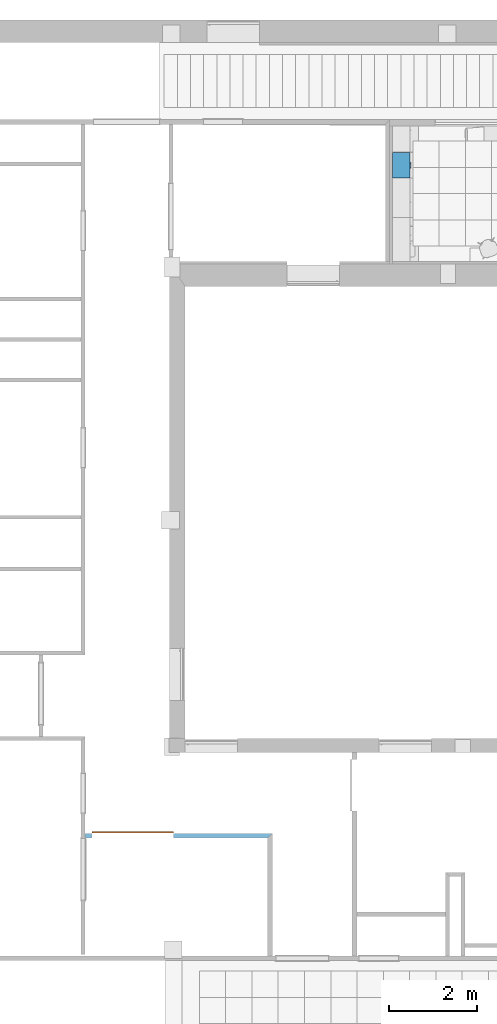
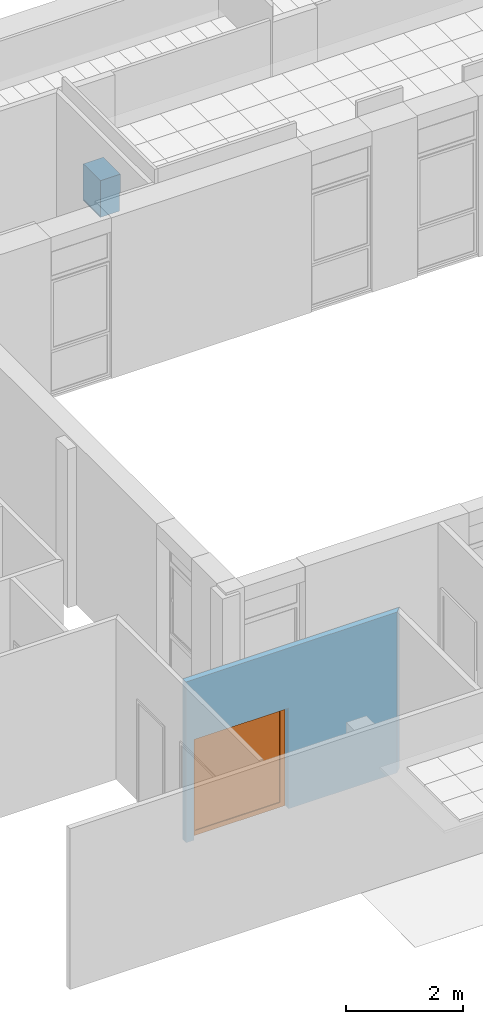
# One storey, part 45 of 60: 1 proxy, 1 slab, 1 opening, plus 1 element that does not belong to this part.
"""IFC2X3 building model written with IfcOpenShell, lengths in millimetres."""

from ifc_helpers import new_model, entity, si_unit, converted_unit, derived_unit, money_unit, direction, frame, origin_with_axes, origin_2d_with_axis, place, context, subcontext, project, spatial, polyline, rectangle, outline, extrude, open_shell, faceted_brep, surface_model, material, layer, layer_set, layer_usage, type_object, element, fill, save


model = new_model("IFC2X3")

# Units and contexts
model_context = context("Model", 3, precision=0.01, world=origin_with_axes(), true_north=direction((0.0, 1.0)))
body_context = subcontext(model_context, "Body", "Model", "MODEL_VIEW")
ifc_project = project(units=[si_unit("LENGTHUNIT", "METRE", prefix="MILLI"), si_unit("AREAUNIT", "SQUARE_METRE"), si_unit("VOLUMEUNIT", "CUBIC_METRE"), converted_unit("PLANEANGLEUNIT", "DEGREE", entity("IfcPlaneAngleMeasure", 0.0174532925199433), si_unit("PLANEANGLEUNIT", "RADIAN"), dimensions=[0, 0, 0, 0, 0, 0, 0]), money_unit("USD"), converted_unit("TIMEUNIT", "Year", entity("IfcTimeMeasure", 31557600.0), si_unit("TIMEUNIT", "SECOND"), dimensions=[0, 0, 1, 0, 0, 0, 0]), si_unit("MASSUNIT", "GRAM", prefix="KILO"), si_unit("THERMODYNAMICTEMPERATUREUNIT", "DEGREE_CELSIUS"), si_unit("LUMINOUSINTENSITYUNIT", "LUMEN"), si_unit("ENERGYUNIT", "JOULE", prefix="MEGA"), derived_unit("THERMALCONDUCTANCEUNIT", [(si_unit("POWERUNIT", "WATT"), 1), (si_unit("LENGTHUNIT", "METRE"), -1), (si_unit("THERMODYNAMICTEMPERATUREUNIT", "KELVIN"), -1)]), derived_unit("SPECIFICHEATCAPACITYUNIT", [(si_unit("ENERGYUNIT", "JOULE"), 1), (si_unit("MASSUNIT", "GRAM", prefix="KILO"), -1), (si_unit("THERMODYNAMICTEMPERATUREUNIT", "KELVIN"), -1)]), derived_unit("MASSDENSITYUNIT", [(si_unit("MASSUNIT", "GRAM", prefix="KILO"), 1), (si_unit("VOLUMEUNIT", "CUBIC_METRE"), -1)])], contexts=[model_context])

# Site, building, storey
site_placement = place(None, origin_with_axes())
site = spatial("IfcSite", under=ifc_project, at=site_placement, Name="Sitio", CompositionType="ELEMENT")
building_placement = place(site_placement, origin_with_axes())
building = spatial("IfcBuilding", under=site, at=building_placement, Name="Construcción", CompositionType="ELEMENT")
storey_placement = place(building_placement, frame((0.0, 0.0, 3650.0), z_axis=(0.0, 0.0, 1.0), x_axis=(1.0, 0.0, 0.0)))
storey = spatial("IfcBuildingStorey", under=building, at=storey_placement, Name="PLANTA 2ª", CompositionType="ELEMENT", Elevation=3650.0)

# Slab
slab_type = type_object("IfcSlabType", Name="Armario Mural 27", PredefinedType="FLOOR")
slab_placement = place(storey_placement, frame((-22963.41789761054, 771.0241762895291, -59.99999999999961), z_axis=(0.0, 0.0, 1.0), x_axis=(0.0, 1.0, 0.0)))
element("IfcSlab", 1, at=slab_placement, inside=storey, type_object=slab_type, Name="60.20.50 Armari", PredefinedType="FLOOR", context=body_context, shape_type="Brep", body=[
    faceted_brep([(18.0, -379.999999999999, 1872.833604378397), (565.8288796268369, -379.999999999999, 1872.833604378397), (565.8288796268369, -379.999999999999, 1890.833604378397), (18.0, -379.999999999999, 1890.833604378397), (18.0, -18.0, 1872.833604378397), (565.8288796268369, -18.0, 1872.833604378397), (565.8288796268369, -18.0, 1890.833604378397), (18.0, -18.0, 1890.833604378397)], [[[0, 1, 2, 3]], [[0, 4, 5, 1]], [[1, 5, 6, 2]], [[3, 2, 6, 7]], [[4, 0, 3, 7]], [[5, 4, 7, 6]]]),
    faceted_brep([(560.8288796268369, -379.999999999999, 1895.833604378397), (23.0, -379.999999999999, 1895.833604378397), (23.0, -18.00000000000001, 1895.833604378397), (560.8288796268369, -18.00000000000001, 1895.833604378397), (560.8288796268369, -379.999999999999, 1905.833604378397), (23.0, -379.999999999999, 1905.833604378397), (23.0, -18.00000000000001, 1905.833604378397), (560.8288796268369, -18.00000000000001, 1905.833604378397)], [[[0, 1, 2, 3]], [[1, 0, 4, 5]], [[2, 1, 5, 6]], [[3, 2, 6, 7]], [[0, 3, 7, 4]], [[5, 4, 7, 6]]]),
    faceted_brep([(43.0, -379.999999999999, 1905.833604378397), (23.0, -379.999999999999, 1905.833604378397), (23.0, -18.00000000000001, 1905.833604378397), (43.0, -18.00000000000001, 1905.833604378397), (43.0, -379.999999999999, 2240.667208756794), (23.0, -379.999999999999, 2240.667208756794), (23.0, -18.00000000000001, 2240.667208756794), (43.0, -18.00000000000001, 2240.667208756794)], [[[0, 1, 2, 3]], [[1, 0, 4, 5]], [[2, 1, 5, 6]], [[3, 2, 6, 7]], [[0, 3, 7, 4]], [[5, 4, 7, 6]]]),
    faceted_brep([(560.8288796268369, -379.999999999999, 1905.833604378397), (540.8288796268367, -379.999999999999, 1905.833604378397), (540.8288796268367, -18.00000000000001, 1905.833604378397), (560.8288796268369, -18.00000000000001, 1905.833604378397), (560.8288796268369, -379.999999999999, 2240.667208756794), (540.8288796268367, -379.999999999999, 2240.667208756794), (540.8288796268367, -18.00000000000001, 2240.667208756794), (560.8288796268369, -18.00000000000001, 2240.667208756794)], [[[0, 1, 2, 3]], [[1, 0, 4, 5]], [[2, 1, 5, 6]], [[3, 2, 6, 7]], [[0, 3, 7, 4]], [[5, 4, 7, 6]]]),
    faceted_brep([(540.8288796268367, -33.00000000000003, 1905.833604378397), (43.0, -33.00000000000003, 1905.833604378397), (43.0, -23.00000000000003, 1905.833604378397), (540.8288796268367, -23.00000000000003, 1905.833604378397), (540.8288796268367, -33.00000000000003, 2240.667208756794), (43.0, -33.00000000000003, 2240.667208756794), (43.0, -23.00000000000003, 2240.667208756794), (540.8288796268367, -23.00000000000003, 2240.667208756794)], [[[0, 1, 2, 3]], [[1, 0, 4, 5]], [[2, 1, 5, 6]], [[3, 2, 6, 7]], [[0, 3, 7, 4]], [[5, 4, 7, 6]]]),
    faceted_brep([(343.7134785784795, -397.999999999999, 1971.882165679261), (343.4879029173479, -397.999999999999, 1971.040305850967), (343.1195668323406, -397.999999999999, 1970.250406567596), (342.6196620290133, -397.999999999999, 1969.536468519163), (342.0033778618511, -397.999999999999, 1968.920184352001), (341.2894398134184, -397.999999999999, 1968.420279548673), (340.4995405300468, -397.999999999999, 1968.051943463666), (339.6576807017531, -397.999999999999, 1967.826367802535), (338.7894398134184, -397.999999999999, 1967.750406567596), (337.9211989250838, -397.999999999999, 1967.826367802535), (337.0793390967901, -397.999999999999, 1968.051943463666), (336.2894398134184, -397.999999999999, 1968.420279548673), (335.5755017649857, -397.999999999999, 1968.920184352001), (334.9592175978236, -397.999999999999, 1969.536468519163), (334.4593127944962, -397.999999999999, 1970.250406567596), (334.0909767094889, -397.999999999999, 1971.040305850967), (333.8654010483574, -397.999999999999, 1971.882165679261), (333.7894398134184, -397.999999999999, 1972.750406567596), (333.8654010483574, -397.999999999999, 1973.61864745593), (334.0909767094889, -397.999999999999, 1974.460507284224), (334.4593127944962, -397.999999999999, 1975.250406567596), (334.9592175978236, -397.999999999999, 1975.964344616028), (335.5755017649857, -397.999999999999, 1976.58062878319), (336.2894398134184, -397.999999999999, 1977.080533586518), (337.0793390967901, -397.999999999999, 1977.448869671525), (337.9211989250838, -397.999999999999, 1977.674445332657), (338.7894398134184, -397.999999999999, 1977.750406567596), (339.6576807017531, -397.999999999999, 1977.674445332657), (340.4995405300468, -397.999999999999, 1977.448869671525), (341.2894398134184, -397.999999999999, 1977.080533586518), (342.0033778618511, -397.999999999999, 1976.58062878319), (342.6196620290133, -397.999999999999, 1975.964344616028), (343.1195668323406, -397.999999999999, 1975.250406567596), (343.4879029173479, -397.999999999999, 1974.460507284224), (343.7134785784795, -397.999999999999, 1973.61864745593), (343.7894398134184, -397.999999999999, 1972.750406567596), (343.7134785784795, -422.999999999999, 1971.882165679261), (343.4879029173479, -422.999999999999, 1971.040305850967), (343.1195668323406, -422.999999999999, 1970.250406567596), (342.6196620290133, -422.999999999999, 1969.536468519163), (342.0033778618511, -422.999999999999, 1968.920184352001), (341.2894398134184, -422.999999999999, 1968.420279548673), (340.4995405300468, -422.999999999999, 1968.051943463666), (339.6576807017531, -422.999999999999, 1967.826367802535), (338.7894398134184, -422.999999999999, 1967.750406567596), (337.9211989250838, -422.999999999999, 1967.826367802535), (337.0793390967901, -422.999999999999, 1968.051943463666), (336.2894398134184, -422.999999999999, 1968.420279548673), (335.5755017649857, -422.999999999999, 1968.920184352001), (334.9592175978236, -422.999999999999, 1969.536468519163), (334.4593127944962, -422.999999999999, 1970.250406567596), (334.0909767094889, -422.999999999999, 1971.040305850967), (333.8654010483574, -422.999999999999, 1971.882165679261), (333.7894398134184, -422.999999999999, 1972.750406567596), (333.8654010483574, -422.999999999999, 1973.61864745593), (334.0909767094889, -422.999999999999, 1974.460507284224), (334.4593127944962, -422.999999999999, 1975.250406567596), (334.9592175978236, -422.999999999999, 1975.964344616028), (335.5755017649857, -422.999999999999, 1976.58062878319), (336.2894398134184, -422.999999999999, 1977.080533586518), (337.0793390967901, -422.999999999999, 1977.448869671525), (337.9211989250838, -422.999999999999, 1977.674445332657), (338.7894398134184, -422.999999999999, 1977.750406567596), (339.6576807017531, -422.999999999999, 1977.674445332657), (340.4995405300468, -422.999999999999, 1977.448869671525), (341.2894398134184, -422.999999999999, 1977.080533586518), (342.0033778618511, -422.999999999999, 1976.58062878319), (342.6196620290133, -422.999999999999, 1975.964344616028), (343.1195668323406, -422.999999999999, 1975.250406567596), (343.4879029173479, -422.999999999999, 1974.460507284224), (343.7134785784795, -422.999999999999, 1973.61864745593), (343.7894398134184, -422.999999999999, 1972.750406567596)], [[[0, 1, 2, 3, 4, 5, 6, 7, 8, 9, 10, 11, 12, 13, 14, 15, 16, 17, 18, 19, 20, 21, 22, 23, 24, 25, 26, 27, 28, 29, 30, 31, 32, 33, 34, 35]], [[1, 0, 36, 37]], [[2, 1, 37, 38]], [[3, 2, 38, 39]], [[4, 3, 39, 40]], [[5, 4, 40, 41]], [[6, 5, 41, 42]], [[7, 6, 42, 43]], [[8, 7, 43, 44]], [[9, 8, 44, 45]], [[10, 9, 45, 46]], [[11, 10, 46, 47]], [[12, 11, 47, 48]], [[13, 12, 48, 49]], [[14, 13, 49, 50]], [[15, 14, 50, 51]], [[16, 15, 51, 52]], [[17, 16, 52, 53]], [[18, 17, 53, 54]], [[19, 18, 54, 55]], [[20, 19, 55, 56]], [[21, 20, 56, 57]], [[22, 21, 57, 58]], [[23, 22, 58, 59]], [[24, 23, 59, 60]], [[25, 24, 60, 61]], [[26, 25, 61, 62]], [[27, 26, 62, 63]], [[28, 27, 63, 64]], [[29, 28, 64, 65]], [[30, 29, 65, 66]], [[31, 30, 66, 67]], [[32, 31, 67, 68]], [[33, 32, 68, 69]], [[34, 33, 69, 70]], [[35, 34, 70, 71]], [[0, 35, 71, 36]], [[36, 71, 70, 69, 68, 67, 66, 65, 64, 63, 62, 61, 60, 59, 58, 57, 56, 55, 54, 53, 52, 51, 50, 49, 48, 47, 46, 45, 44, 43, 42, 41, 40, 39, 38, 37]]]),
    faceted_brep([(240.1154010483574, -397.999999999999, 1971.882165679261), (240.0394398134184, -397.999999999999, 1972.750406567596), (240.1154010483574, -397.999999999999, 1973.61864745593), (240.3409767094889, -397.999999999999, 1974.460507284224), (240.7093127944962, -397.999999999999, 1975.250406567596), (241.2092175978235, -397.999999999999, 1975.964344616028), (241.8255017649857, -397.999999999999, 1976.58062878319), (242.5394398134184, -397.999999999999, 1977.080533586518), (243.3293390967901, -397.999999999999, 1977.448869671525), (244.1711989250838, -397.999999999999, 1977.674445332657), (245.0394398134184, -397.999999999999, 1977.750406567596), (245.9076807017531, -397.999999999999, 1977.674445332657), (246.7495405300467, -397.999999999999, 1977.448869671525), (247.5394398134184, -397.999999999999, 1977.080533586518), (248.2533778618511, -397.999999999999, 1976.58062878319), (248.8696620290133, -397.999999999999, 1975.964344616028), (249.3695668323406, -397.999999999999, 1975.250406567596), (249.737902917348, -397.999999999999, 1974.460507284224), (249.9634785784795, -397.999999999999, 1973.61864745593), (250.0394398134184, -397.999999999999, 1972.750406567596), (249.9634785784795, -397.999999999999, 1971.882165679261), (249.737902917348, -397.999999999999, 1971.040305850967), (249.3695668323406, -397.999999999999, 1970.250406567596), (248.8696620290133, -397.999999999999, 1969.536468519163), (248.2533778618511, -397.999999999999, 1968.920184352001), (247.5394398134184, -397.999999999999, 1968.420279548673), (246.7495405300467, -397.999999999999, 1968.051943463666), (245.9076807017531, -397.999999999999, 1967.826367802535), (245.0394398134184, -397.999999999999, 1967.750406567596), (244.1711989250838, -397.999999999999, 1967.826367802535), (243.3293390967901, -397.999999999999, 1968.051943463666), (242.5394398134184, -397.999999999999, 1968.420279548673), (241.8255017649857, -397.999999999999, 1968.920184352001), (241.2092175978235, -397.999999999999, 1969.536468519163), (240.7093127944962, -397.999999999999, 1970.250406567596), (240.3409767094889, -397.999999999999, 1971.040305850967), (240.1154010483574, -422.999999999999, 1971.882165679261), (240.0394398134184, -422.999999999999, 1972.750406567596), (240.1154010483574, -422.999999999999, 1973.61864745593), (240.3409767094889, -422.999999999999, 1974.460507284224), (240.7093127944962, -422.999999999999, 1975.250406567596), (241.2092175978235, -422.999999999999, 1975.964344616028), (241.8255017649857, -422.999999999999, 1976.58062878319), (242.5394398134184, -422.999999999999, 1977.080533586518), (243.3293390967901, -422.999999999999, 1977.448869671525), (244.1711989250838, -422.999999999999, 1977.674445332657), (245.0394398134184, -422.999999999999, 1977.750406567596), (245.9076807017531, -422.999999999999, 1977.674445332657), (246.7495405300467, -422.999999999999, 1977.448869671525), (247.5394398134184, -422.999999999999, 1977.080533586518), (248.2533778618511, -422.999999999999, 1976.58062878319), (248.8696620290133, -422.999999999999, 1975.964344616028), (249.3695668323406, -422.999999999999, 1975.250406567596), (249.737902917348, -422.999999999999, 1974.460507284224), (249.9634785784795, -422.999999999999, 1973.61864745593), (250.0394398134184, -422.999999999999, 1972.750406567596), (249.9634785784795, -422.999999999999, 1971.882165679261), (249.737902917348, -422.999999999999, 1971.040305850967), (249.3695668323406, -422.999999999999, 1970.250406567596), (248.8696620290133, -422.999999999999, 1969.536468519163), (248.2533778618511, -422.999999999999, 1968.920184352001), (247.5394398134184, -422.999999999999, 1968.420279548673), (246.7495405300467, -422.999999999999, 1968.051943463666), (245.9076807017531, -422.999999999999, 1967.826367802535), (245.0394398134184, -422.999999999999, 1967.750406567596), (244.1711989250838, -422.999999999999, 1967.826367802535), (243.3293390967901, -422.999999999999, 1968.051943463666), (242.5394398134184, -422.999999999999, 1968.420279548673), (241.8255017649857, -422.999999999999, 1968.920184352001), (241.2092175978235, -422.999999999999, 1969.536468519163), (240.7093127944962, -422.999999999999, 1970.250406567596), (240.3409767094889, -422.999999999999, 1971.040305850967)], [[[0, 1, 2, 3, 4, 5, 6, 7, 8, 9, 10, 11, 12, 13, 14, 15, 16, 17, 18, 19, 20, 21, 22, 23, 24, 25, 26, 27, 28, 29, 30, 31, 32, 33, 34, 35]], [[0, 36, 37, 1]], [[1, 37, 38, 2]], [[2, 38, 39, 3]], [[3, 39, 40, 4]], [[4, 40, 41, 5]], [[5, 41, 42, 6]], [[6, 42, 43, 7]], [[7, 43, 44, 8]], [[8, 44, 45, 9]], [[9, 45, 46, 10]], [[10, 46, 47, 11]], [[11, 47, 48, 12]], [[12, 48, 49, 13]], [[13, 49, 50, 14]], [[14, 50, 51, 15]], [[15, 51, 52, 16]], [[16, 52, 53, 17]], [[17, 53, 54, 18]], [[18, 54, 55, 19]], [[19, 55, 56, 20]], [[20, 56, 57, 21]], [[21, 57, 58, 22]], [[22, 58, 59, 23]], [[23, 59, 60, 24]], [[24, 60, 61, 25]], [[25, 61, 62, 26]], [[26, 62, 63, 27]], [[27, 63, 64, 28]], [[28, 64, 65, 29]], [[29, 65, 66, 30]], [[30, 66, 67, 31]], [[31, 67, 68, 32]], [[32, 68, 69, 33]], [[33, 69, 70, 34]], [[34, 70, 71, 35]], [[35, 71, 36, 0]], [[36, 71, 70, 69, 68, 67, 66, 65, 64, 63, 62, 61, 60, 59, 58, 57, 56, 55, 54, 53, 52, 51, 50, 49, 48, 47, 46, 45, 44, 43, 42, 41, 40, 39, 38, 37]]]),
    faceted_brep([(216.9144398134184, -418.075961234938, 1971.882165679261), (216.9144398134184, -418.3015368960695, 1971.040305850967), (216.9144398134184, -418.6698729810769, 1970.250406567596), (216.9144398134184, -419.1697777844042, 1969.536468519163), (216.9144398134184, -419.7860619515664, 1968.920184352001), (216.9144398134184, -420.499999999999, 1968.420279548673), (216.9144398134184, -421.2898992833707, 1968.051943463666), (216.9144398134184, -422.1317591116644, 1967.826367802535), (216.9144398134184, -422.999999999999, 1967.750406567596), (216.9144398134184, -423.8682408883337, 1967.826367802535), (216.9144398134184, -424.7101007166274, 1968.051943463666), (216.9144398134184, -425.499999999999, 1968.420279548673), (216.9144398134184, -426.2139380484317, 1968.920184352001), (216.9144398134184, -426.8302222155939, 1969.536468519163), (216.9144398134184, -427.3301270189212, 1970.250406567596), (216.9144398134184, -427.6984631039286, 1971.040305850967), (216.9144398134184, -427.9240387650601, 1971.882165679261), (216.9144398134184, -427.999999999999, 1972.750406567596), (216.9144398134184, -427.9240387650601, 1973.61864745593), (216.9144398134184, -427.6984631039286, 1974.460507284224), (216.9144398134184, -427.3301270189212, 1975.250406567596), (216.9144398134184, -426.8302222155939, 1975.964344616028), (216.9144398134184, -426.2139380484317, 1976.58062878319), (216.9144398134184, -425.499999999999, 1977.080533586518), (216.9144398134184, -424.7101007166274, 1977.448869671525), (216.9144398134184, -423.8682408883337, 1977.674445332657), (216.9144398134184, -422.999999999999, 1977.750406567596), (216.9144398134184, -422.1317591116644, 1977.674445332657), (216.9144398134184, -421.2898992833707, 1977.448869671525), (216.9144398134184, -420.499999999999, 1977.080533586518), (216.9144398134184, -419.7860619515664, 1976.58062878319), (216.9144398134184, -419.1697777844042, 1975.964344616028), (216.9144398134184, -418.6698729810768, 1975.250406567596), (216.9144398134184, -418.3015368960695, 1974.460507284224), (216.9144398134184, -418.075961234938, 1973.61864745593), (216.9144398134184, -417.999999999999, 1972.750406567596), (366.9144398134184, -418.075961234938, 1971.882165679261), (366.9144398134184, -418.3015368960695, 1971.040305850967), (366.9144398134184, -418.6698729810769, 1970.250406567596), (366.9144398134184, -419.1697777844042, 1969.536468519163), (366.9144398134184, -419.7860619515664, 1968.920184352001), (366.9144398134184, -420.499999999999, 1968.420279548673), (366.9144398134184, -421.2898992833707, 1968.051943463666), (366.9144398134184, -422.1317591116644, 1967.826367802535), (366.9144398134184, -422.999999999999, 1967.750406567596), (366.9144398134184, -423.8682408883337, 1967.826367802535), (366.9144398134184, -424.7101007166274, 1968.051943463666), (366.9144398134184, -425.499999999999, 1968.420279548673), (366.9144398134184, -426.2139380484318, 1968.920184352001), (366.9144398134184, -426.8302222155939, 1969.536468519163), (366.9144398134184, -427.3301270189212, 1970.250406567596), (366.9144398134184, -427.6984631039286, 1971.040305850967), (366.9144398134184, -427.9240387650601, 1971.882165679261), (366.9144398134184, -427.999999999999, 1972.750406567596), (366.9144398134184, -427.9240387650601, 1973.61864745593), (366.9144398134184, -427.6984631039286, 1974.460507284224), (366.9144398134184, -427.3301270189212, 1975.250406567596), (366.9144398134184, -426.8302222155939, 1975.964344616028), (366.9144398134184, -426.2139380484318, 1976.58062878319), (366.9144398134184, -425.499999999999, 1977.080533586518), (366.9144398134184, -424.7101007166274, 1977.448869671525), (366.9144398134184, -423.8682408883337, 1977.674445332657), (366.9144398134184, -422.999999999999, 1977.750406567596), (366.9144398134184, -422.1317591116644, 1977.674445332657), (366.9144398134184, -421.2898992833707, 1977.448869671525), (366.9144398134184, -420.499999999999, 1977.080533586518), (366.9144398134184, -419.7860619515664, 1976.58062878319), (366.9144398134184, -419.1697777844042, 1975.964344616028), (366.9144398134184, -418.6698729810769, 1975.250406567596), (366.9144398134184, -418.3015368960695, 1974.460507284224), (366.9144398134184, -418.075961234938, 1973.61864745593), (366.9144398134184, -417.999999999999, 1972.750406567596)], [[[0, 1, 2, 3, 4, 5, 6, 7, 8, 9, 10, 11, 12, 13, 14, 15, 16, 17, 18, 19, 20, 21, 22, 23, 24, 25, 26, 27, 28, 29, 30, 31, 32, 33, 34, 35]], [[1, 0, 36, 37]], [[2, 1, 37, 38]], [[3, 2, 38, 39]], [[4, 3, 39, 40]], [[5, 4, 40, 41]], [[6, 5, 41, 42]], [[7, 6, 42, 43]], [[8, 7, 43, 44]], [[9, 8, 44, 45]], [[10, 9, 45, 46]], [[11, 10, 46, 47]], [[12, 11, 47, 48]], [[13, 12, 48, 49]], [[14, 13, 49, 50]], [[15, 14, 50, 51]], [[16, 15, 51, 52]], [[17, 16, 52, 53]], [[18, 17, 53, 54]], [[19, 18, 54, 55]], [[20, 19, 55, 56]], [[21, 20, 56, 57]], [[22, 21, 57, 58]], [[23, 22, 58, 59]], [[24, 23, 59, 60]], [[25, 24, 60, 61]], [[26, 25, 61, 62]], [[27, 26, 62, 63]], [[28, 27, 63, 64]], [[29, 28, 64, 65]], [[30, 29, 65, 66]], [[31, 30, 66, 67]], [[32, 31, 67, 68]], [[33, 32, 68, 69]], [[34, 33, 69, 70]], [[35, 34, 70, 71]], [[0, 35, 71, 36]], [[36, 71, 70, 69, 68, 67, 66, 65, 64, 63, 62, 61, 60, 59, 58, 57, 56, 55, 54, 53, 52, 51, 50, 49, 48, 47, 46, 45, 44, 43, 42, 41, 40, 39, 38, 37]]]),
    faceted_brep([(1.0, -379.999999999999, 1882.833604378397), (582.8288796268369, -379.999999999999, 1882.833604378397), (582.8288796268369, -397.999999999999, 1882.833604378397), (1.0, -397.999999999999, 1882.833604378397), (1.0, -379.999999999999, 2262.667208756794), (582.8288796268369, -379.999999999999, 2262.667208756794), (582.8288796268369, -397.999999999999, 2262.667208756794), (1.0, -397.999999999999, 2262.667208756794)], [[[0, 1, 2, 3]], [[0, 4, 5, 1]], [[1, 5, 6, 2]], [[3, 2, 6, 7]], [[4, 0, 3, 7]], [[5, 4, 7, 6]]]),
    faceted_brep([(18.0, -379.999999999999, 1500.0), (565.8288796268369, -379.999999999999, 1500.0), (565.8288796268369, -379.999999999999, 1518.0), (18.0, -379.999999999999, 1518.0), (18.0, 0.0, 1500.0), (565.8288796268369, 0.0, 1500.0), (565.8288796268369, 0.0, 1518.0), (18.0, 0.0, 1518.0)], [[[0, 1, 2, 3]], [[0, 4, 5, 1]], [[1, 5, 6, 2]], [[3, 2, 6, 7]], [[4, 0, 3, 7]], [[5, 4, 7, 6]]]),
    faceted_brep([(18.0, -379.999999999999, 2245.667208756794), (565.8288796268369, -379.999999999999, 2245.667208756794), (565.8288796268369, -379.999999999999, 2263.667208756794), (18.0, -379.999999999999, 2263.667208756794), (18.0, 0.0, 2245.667208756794), (565.8288796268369, 0.0, 2245.667208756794), (565.8288796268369, 0.0, 2263.667208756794), (18.0, 0.0, 2263.667208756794)], [[[0, 1, 2, 3]], [[0, 4, 5, 1]], [[1, 5, 6, 2]], [[3, 2, 6, 7]], [[4, 0, 3, 7]], [[5, 4, 7, 6]]]),
    faceted_brep([(0.0, 0.0, 1500.0), (0.0, -379.999999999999, 1500.0), (0.0, -379.999999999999, 2263.667208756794), (0.0, 0.0, 2263.667208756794), (18.0, 0.0, 1500.0), (18.0, -379.999999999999, 1500.0), (18.0, -379.999999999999, 2263.667208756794), (18.0, 0.0, 2263.667208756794)], [[[0, 1, 2, 3]], [[0, 4, 5, 1]], [[1, 5, 6, 2]], [[3, 2, 6, 7]], [[4, 0, 3, 7]], [[5, 4, 7, 6]]]),
    faceted_brep([(583.8288796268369, -379.999999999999, 1500.0), (583.8288796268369, 0.0, 1500.0), (583.8288796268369, 0.0, 2263.667208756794), (583.8288796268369, -379.999999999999, 2263.667208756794), (565.8288796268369, -379.999999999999, 1500.0), (565.8288796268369, 0.0, 1500.0), (565.8288796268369, 0.0, 2263.667208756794), (565.8288796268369, -379.999999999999, 2263.667208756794)], [[[0, 1, 2, 3]], [[0, 4, 5, 1]], [[1, 5, 6, 2]], [[3, 2, 6, 7]], [[4, 0, 3, 7]], [[5, 4, 7, 6]]]),
    faceted_brep([(565.8288796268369, -9.0, 1518.0), (18.00000000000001, -9.0, 1518.0), (18.00000000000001, -9.0, 2245.667208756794), (565.8288796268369, -9.0, 2245.667208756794), (565.8288796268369, -18.0, 1518.0), (18.00000000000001, -18.0, 1518.0), (18.00000000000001, -18.0, 2245.667208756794), (565.8288796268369, -18.0, 2245.667208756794)], [[[0, 1, 2, 3]], [[0, 4, 5, 1]], [[1, 5, 6, 2]], [[3, 2, 6, 7]], [[4, 0, 3, 7]], [[5, 4, 7, 6]]]),
])

# Wall, opening, proxy
ifc_material_1 = material(Name="ARQ_AM246_Arrebossat_De_Guix")
ifc_layer_1 = layer(ifc_material_1, 10.0, ventilated="UNKNOWN")
ifc_material_2 = material(Name="ARQ_CE217_Gero")
ifc_layer_2 = layer(ifc_material_2, 90.0, ventilated="UNKNOWN")
ifc_layer_3 = layer(ifc_material_1, 10.0, ventilated="UNKNOWN")
ifc_layer_set = layer_set([ifc_layer_1, ifc_layer_2, ifc_layer_3], Name="CR Enva Totxana")
ifc_layer_usage = layer_usage(ifc_layer_set, "AXIS2", "POSITIVE", 0.0)
wall_type = type_object("IfcWallType", Name="CR Enva Totxana 110", PredefinedType="NOTDEFINED")
wall_placement = place(storey_placement, frame((-25702.67583112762, -14180.94375341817, 0.0), z_axis=(0.0, 0.0, 1.0), x_axis=(-1.0, 0.0, 0.0)))
wall = element("IfcWallStandardCase", 2, at=wall_placement, inside=storey, type_object=wall_type, material=ifc_layer_usage, Name="MS-201", context=body_context, shape_type="SweptSolid", body=[
    extrude(outline(polyline([(0.0, 0.0), (4269.999999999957, 0.0), (4269.999999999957, 109.9999999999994), (109.9999999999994, 109.9999999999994), (0.0, 0.0)])), origin_with_axes(), (0.0, 0.0, 1.0), 3350.0),
])
opening_placement = place(wall_placement, frame((3181.425102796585, 0.0, 0.0), z_axis=(0.0, 0.0, 1.0), x_axis=(1.0, 0.0, 0.0)))
opening = element("IfcOpeningElement", 3, at=opening_placement, cuts=wall, Name="PF-13D", context=body_context, shape_type="SweptSolid", body=[
    extrude(rectangle(XDim=1861.353510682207, YDim=2100.0, at=origin_2d_with_axis()), frame((0.0, 109.9999999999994, 1050.0), z_axis=(0.0, -1.0, 0.0), x_axis=(-1.0, 0.0, 0.0)), (0.0, 0.0, 1.0), 329.9999999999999),
])
building_element_proxy_type = type_object("IfcBuildingElementProxyType", Name="Puerta Corredera Exterior 27", PredefinedType="NOTDEFINED")
proxy_placement = place(opening_placement, frame((930.6767553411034, 0.0, 0.0), z_axis=(0.0, 0.0, 1.0), x_axis=(-1.0, 0.0, 0.0)))
proxy = element("IfcBuildingElementProxy", 4, at=proxy_placement, inside=storey, type_object=building_element_proxy_type, Name="PF-13D", context=body_context, shape_type="SurfaceModel", body=[
    faceted_brep([(1861.353510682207, 44.99999999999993, 100.0000000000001), (1861.353510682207, 4.999999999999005, 100.0000000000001), (1761.353510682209, 4.999999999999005, 100.0000000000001), (1761.353510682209, 44.99999999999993, 100.0000000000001), (1861.353510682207, 44.99999999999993, 2000.0), (1861.353510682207, 4.999999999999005, 2000.0), (1761.353510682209, 4.999999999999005, 2000.0), (1761.353510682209, 44.99999999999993, 2000.0)], [[[0, 1, 2, 3]], [[4, 5, 1, 0]], [[1, 5, 6, 2]], [[3, 2, 6, 7]], [[0, 3, 7, 4]], [[7, 6, 5, 4]]]),
    faceted_brep([(0.0, 44.99999999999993, 100.0000000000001), (0.0, 5.000000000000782, 100.0000000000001), (0.0, 5.000000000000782, 2000.0), (0.0, 44.99999999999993, 2000.0), (99.99999999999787, 44.99999999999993, 100.0000000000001), (99.99999999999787, 5.000000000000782, 100.0000000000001), (99.99999999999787, 5.000000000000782, 2000.0), (99.99999999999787, 44.99999999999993, 2000.0)], [[[0, 1, 2, 3]], [[4, 5, 1, 0]], [[1, 5, 6, 2]], [[3, 2, 6, 7]], [[0, 3, 7, 4]], [[7, 6, 5, 4]]]),
    faceted_brep([(1861.353510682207, 44.99999999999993, 0.0), (1861.353510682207, 4.999999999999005, 0.0), (0.0, 5.000000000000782, 0.0), (0.0, 44.99999999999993, 0.0), (1861.353510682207, 44.99999999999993, 100.0000000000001), (1861.353510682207, 4.999999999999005, 100.0000000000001), (1761.353510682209, 4.999999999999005, 100.0000000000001), (99.99999999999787, 5.000000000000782, 100.0000000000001), (0.0, 5.000000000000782, 100.0000000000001), (0.0, 44.99999999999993, 100.0000000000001), (99.99999999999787, 44.99999999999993, 100.0000000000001), (1761.353510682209, 44.99999999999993, 100.0000000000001)], [[[0, 1, 2, 3]], [[4, 5, 1, 0]], [[1, 5, 6, 7, 8, 2]], [[3, 2, 8, 9]], [[0, 3, 9, 10, 11, 4]], [[11, 6, 5, 4]], [[10, 7, 6, 11]], [[9, 8, 7, 10]]]),
    faceted_brep([(1861.353510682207, 44.99999999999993, 2100.0), (1861.353510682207, 4.999999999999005, 2100.0), (1861.353510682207, 4.999999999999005, 2000.0), (1861.353510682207, 44.99999999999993, 2000.0), (0.0, 44.99999999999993, 2100.0), (0.0, 5.000000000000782, 2100.0), (0.0, 5.000000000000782, 2000.0), (99.99999999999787, 5.000000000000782, 2000.0), (1761.353510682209, 4.999999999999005, 2000.0), (1761.353510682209, 44.99999999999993, 2000.0), (99.99999999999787, 44.99999999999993, 2000.0), (0.0, 44.99999999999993, 2000.0)], [[[0, 1, 2, 3]], [[4, 5, 1, 0]], [[1, 5, 6, 7, 8, 2]], [[3, 2, 8, 9]], [[0, 3, 9, 10, 11, 4]], [[11, 6, 5, 4]], [[10, 7, 6, 11]], [[9, 8, 7, 10]]]),
    surface_model("IfcShellBasedSurfaceModel", [(1761.353510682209, 31.00000000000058, 100.0000000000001), (99.99999999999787, 31.00000000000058, 100.0000000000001), (99.99999999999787, 31.00000000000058, 2000.0), (1761.353510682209, 30.99999999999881, 2000.0)], [open_shell([[[0, 1, 2, 3]]])]),
    surface_model("IfcShellBasedSurfaceModel", [(1761.353510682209, 19.00000000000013, 100.0000000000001), (1761.353510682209, 19.00000000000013, 2000.0), (99.99999999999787, 19.00000000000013, 2000.0), (99.99999999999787, 19.00000000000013, 100.0000000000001)], [open_shell([[[0, 1, 2, 3]]])]),
])
fill(opening, proxy)

save(model, "model.ifc")
